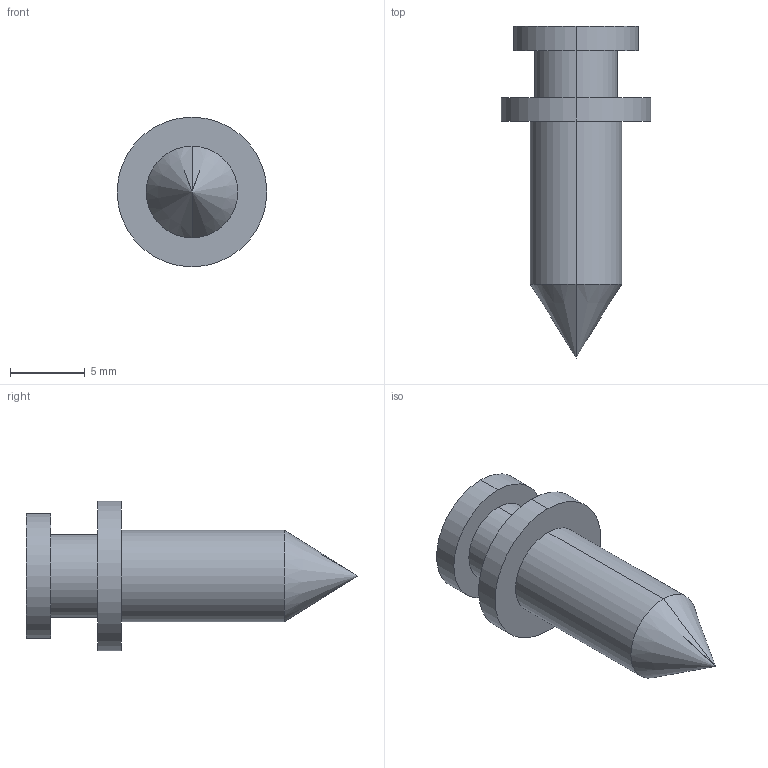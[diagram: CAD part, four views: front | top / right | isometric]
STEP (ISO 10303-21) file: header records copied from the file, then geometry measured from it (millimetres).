
FILE_DESCRIPTION (( 'STEP AP214' ), '1' );
FILE_NAME ('6165_V01_REF_PRT_SH_SCR.STEP', '2026-01-20T15:33:44', ( '' ), ( '' ), 'SwSTEP 2.0', 'SolidWorks 2025', '' );
FILE_SCHEMA (( 'AUTOMOTIVE_DESIGN' ));
Length unit declared in the file: inch
Products named in the file (1): 6165_V01_REF_PRT_SH_SCR
Bounding box: 10.03 x 22.25 x 10.03 mm (x, y, z)
Volume: 663.6 mm3; surface area: 605.5 mm2
Topology: 1 solids, 1 shells, 14 faces, 28 edges, 17 vertices
Faces by surface type: cylinder 8, plane 4, cone 2
Entity records: 385 total; most frequent: DIRECTION 72, CARTESIAN_POINT 58, ORIENTED_EDGE 52, AXIS2_PLACEMENT_3D 31, EDGE_CURVE 26, EDGE_LOOP 17, VERTEX_POINT 17, CIRCLE 16
